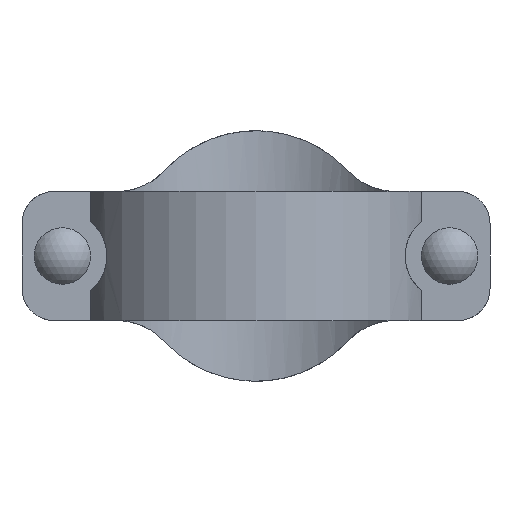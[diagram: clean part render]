
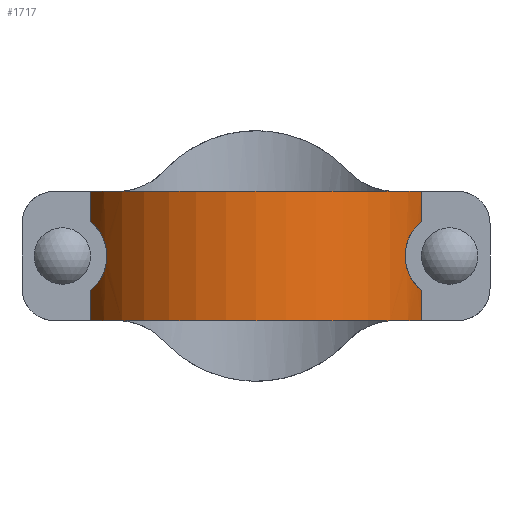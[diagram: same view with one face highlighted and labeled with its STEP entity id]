
A CAD part, front view. The second image highlights one B-rep face of the part: STEP entity #1717.
In plain terms, the highlighted cylindrical face has radius 69.85 mm (diameter 139.7 mm), a partial arc.
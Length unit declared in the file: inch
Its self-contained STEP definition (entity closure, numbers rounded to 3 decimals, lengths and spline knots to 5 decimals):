
#62=B_SPLINE_CURVE_WITH_KNOTS('',3,(#2529,#2530,#2531,#2532,#2533,#2534,
#2535,#2536,#2537,#2538,#2539,#2540,#2541,#2542,#2543,#2544,#2545,#2546,
#2547,#2548,#2549,#2550,#2551,#2552,#2553,#2554),.UNSPECIFIED.,.F.,.F.,
(4,2,2,2,2,2,2,2,2,2,2,2,4),(1.01927,1.09734,1.646,
2.19467,2.61833,2.83016,3.04198,3.25381,
3.46564,3.88929,4.43796,4.98663,5.06469),
 .UNSPECIFIED.);
#77=B_SPLINE_CURVE_WITH_KNOTS('',3,(#3099,#3100,#3101,#3102,#3103,#3104,
#3105,#3106,#3107,#3108,#3109,#3110,#3111,#3112,#3113,#3114,#3115,#3116,
#3117,#3118,#3119,#3120,#3121,#3122,#3123,#3124),.UNSPECIFIED.,.F.,.F.,
(4,2,2,2,2,2,2,2,2,2,2,2,4),(1.01927,1.09734,1.646,
2.19467,2.61833,2.83016,3.04198,3.25381,
3.46564,3.88929,4.43796,4.98663,5.06469),
 .UNSPECIFIED.);
#106=CYLINDRICAL_SURFACE('',#1877,2.75);
#189=FACE_OUTER_BOUND('',#278,.T.);
#278=EDGE_LOOP('',(#1328,#1329,#1330,#1331,#1332,#1333,#1334,#1335));
#417=LINE('',#3202,#551);
#418=LINE('',#3205,#552);
#419=LINE('',#3206,#553);
#420=LINE('',#3207,#554);
#551=VECTOR('',#2265,0.3937);
#552=VECTOR('',#2268,0.3937);
#553=VECTOR('',#2269,0.3937);
#554=VECTOR('',#2270,0.3937);
#632=CIRCLE('',#1876,2.75);
#633=CIRCLE('',#1878,2.75);
#685=VERTEX_POINT('',#2527);
#686=VERTEX_POINT('',#2528);
#753=VERTEX_POINT('',#3097);
#754=VERTEX_POINT('',#3098);
#779=VERTEX_POINT('',#3195);
#780=VERTEX_POINT('',#3197);
#781=VERTEX_POINT('',#3201);
#782=VERTEX_POINT('',#3203);
#860=EDGE_CURVE('',#685,#686,#62,.T.);
#950=EDGE_CURVE('',#753,#754,#77,.T.);
#989=EDGE_CURVE('',#779,#780,#632,.T.);
#991=EDGE_CURVE('',#781,#686,#417,.T.);
#992=EDGE_CURVE('',#782,#781,#633,.T.);
#993=EDGE_CURVE('',#753,#782,#418,.T.);
#994=EDGE_CURVE('',#780,#754,#419,.T.);
#995=EDGE_CURVE('',#685,#779,#420,.T.);
#1328=ORIENTED_EDGE('',*,*,#860,.T.);
#1329=ORIENTED_EDGE('',*,*,#991,.F.);
#1330=ORIENTED_EDGE('',*,*,#992,.F.);
#1331=ORIENTED_EDGE('',*,*,#993,.F.);
#1332=ORIENTED_EDGE('',*,*,#950,.T.);
#1333=ORIENTED_EDGE('',*,*,#994,.F.);
#1334=ORIENTED_EDGE('',*,*,#989,.F.);
#1335=ORIENTED_EDGE('',*,*,#995,.F.);
#1717=ADVANCED_FACE('',(#189),#106,.T.);
#1876=AXIS2_PLACEMENT_3D('',#3198,#2260,#2261);
#1877=AXIS2_PLACEMENT_3D('',#3200,#2263,#2264);
#1878=AXIS2_PLACEMENT_3D('',#3204,#2266,#2267);
#2260=DIRECTION('center_axis',(0.,0.,1.));
#2261=DIRECTION('ref_axis',(-0.932,-0.364,0.));
#2263=DIRECTION('center_axis',(0.,0.,1.));
#2264=DIRECTION('ref_axis',(-0.932,-0.364,0.));
#2265=DIRECTION('',(0.,0.,1.));
#2266=DIRECTION('center_axis',(0.,0.,-1.));
#2267=DIRECTION('ref_axis',(-0.932,-0.364,0.));
#2268=DIRECTION('',(0.,0.,-1.));
#2269=DIRECTION('',(0.,0.,-1.));
#2270=DIRECTION('',(0.,0.,1.));
#2527=CARTESIAN_POINT('',(-2.56174,-1.,0.53294));
#2528=CARTESIAN_POINT('',(-2.56174,-1.,-0.53294));
#2529=CARTESIAN_POINT('Ctrl Pts',(-2.56174,-1.,0.53294));
#2530=CARTESIAN_POINT('Ctrl Pts',(-2.55795,-1.00971,0.52983));
#2531=CARTESIAN_POINT('Ctrl Pts',(-2.55412,-1.01935,0.52661));
#2532=CARTESIAN_POINT('Ctrl Pts',(-2.5231,-1.09624,0.49995));
#2533=CARTESIAN_POINT('Ctrl Pts',(-2.49415,-1.16014,0.47146));
#2534=CARTESIAN_POINT('Ctrl Pts',(-2.43671,-1.27637,0.40109));
#2535=CARTESIAN_POINT('Ctrl Pts',(-2.4082,-1.32878,0.35932));
#2536=CARTESIAN_POINT('Ctrl Pts',(-2.36314,-1.40699,0.26914));
#2537=CARTESIAN_POINT('Ctrl Pts',(-2.34395,-1.43842,0.22072));
#2538=CARTESIAN_POINT('Ctrl Pts',(-2.32393,-1.47037,0.14068));
#2539=CARTESIAN_POINT('Ctrl Pts',(-2.31869,-1.47859,0.11278));
#2540=CARTESIAN_POINT('Ctrl Pts',(-2.31172,-1.48947,0.05634));
#2541=CARTESIAN_POINT('Ctrl Pts',(-2.31,-1.49211,0.0278));
#2542=CARTESIAN_POINT('Ctrl Pts',(-2.31,-1.49211,-0.0278));
#2543=CARTESIAN_POINT('Ctrl Pts',(-2.31172,-1.48947,-0.05634));
#2544=CARTESIAN_POINT('Ctrl Pts',(-2.31869,-1.47859,-0.11278));
#2545=CARTESIAN_POINT('Ctrl Pts',(-2.32393,-1.47037,-0.14068));
#2546=CARTESIAN_POINT('Ctrl Pts',(-2.34395,-1.43842,-0.22072));
#2547=CARTESIAN_POINT('Ctrl Pts',(-2.36314,-1.40699,-0.26914));
#2548=CARTESIAN_POINT('Ctrl Pts',(-2.4082,-1.32878,-0.35932));
#2549=CARTESIAN_POINT('Ctrl Pts',(-2.43671,-1.27637,-0.40109));
#2550=CARTESIAN_POINT('Ctrl Pts',(-2.49415,-1.16014,-0.47146));
#2551=CARTESIAN_POINT('Ctrl Pts',(-2.5231,-1.09624,-0.49995));
#2552=CARTESIAN_POINT('Ctrl Pts',(-2.55412,-1.01935,-0.52661));
#2553=CARTESIAN_POINT('Ctrl Pts',(-2.55795,-1.00971,-0.52983));
#2554=CARTESIAN_POINT('Ctrl Pts',(-2.56174,-1.,-0.53294));
#3097=CARTESIAN_POINT('',(2.56174,-1.,-0.53294));
#3098=CARTESIAN_POINT('',(2.56174,-1.,0.53294));
#3099=CARTESIAN_POINT('Ctrl Pts',(2.56174,-1.,-0.53294));
#3100=CARTESIAN_POINT('Ctrl Pts',(2.55795,-1.00971,-0.52983));
#3101=CARTESIAN_POINT('Ctrl Pts',(2.55412,-1.01935,-0.52661));
#3102=CARTESIAN_POINT('Ctrl Pts',(2.5231,-1.09624,-0.49995));
#3103=CARTESIAN_POINT('Ctrl Pts',(2.49415,-1.16014,-0.47146));
#3104=CARTESIAN_POINT('Ctrl Pts',(2.43671,-1.27637,-0.40109));
#3105=CARTESIAN_POINT('Ctrl Pts',(2.4082,-1.32878,-0.35932));
#3106=CARTESIAN_POINT('Ctrl Pts',(2.36314,-1.40699,-0.26914));
#3107=CARTESIAN_POINT('Ctrl Pts',(2.34395,-1.43842,-0.22072));
#3108=CARTESIAN_POINT('Ctrl Pts',(2.32393,-1.47037,-0.14068));
#3109=CARTESIAN_POINT('Ctrl Pts',(2.31869,-1.47859,-0.11278));
#3110=CARTESIAN_POINT('Ctrl Pts',(2.31172,-1.48947,-0.05634));
#3111=CARTESIAN_POINT('Ctrl Pts',(2.31,-1.49211,-0.0278));
#3112=CARTESIAN_POINT('Ctrl Pts',(2.31,-1.49211,0.0278));
#3113=CARTESIAN_POINT('Ctrl Pts',(2.31172,-1.48947,0.05634));
#3114=CARTESIAN_POINT('Ctrl Pts',(2.31869,-1.47859,0.11278));
#3115=CARTESIAN_POINT('Ctrl Pts',(2.32393,-1.47037,0.14068));
#3116=CARTESIAN_POINT('Ctrl Pts',(2.34395,-1.43842,0.22072));
#3117=CARTESIAN_POINT('Ctrl Pts',(2.36314,-1.40699,0.26914));
#3118=CARTESIAN_POINT('Ctrl Pts',(2.4082,-1.32878,0.35932));
#3119=CARTESIAN_POINT('Ctrl Pts',(2.43671,-1.27637,0.40109));
#3120=CARTESIAN_POINT('Ctrl Pts',(2.49415,-1.16014,0.47146));
#3121=CARTESIAN_POINT('Ctrl Pts',(2.5231,-1.09624,0.49995));
#3122=CARTESIAN_POINT('Ctrl Pts',(2.55412,-1.01935,0.52661));
#3123=CARTESIAN_POINT('Ctrl Pts',(2.55795,-1.00971,0.52983));
#3124=CARTESIAN_POINT('Ctrl Pts',(2.56174,-1.,0.53294));
#3195=CARTESIAN_POINT('',(-2.56174,-1.,1.));
#3197=CARTESIAN_POINT('',(2.56174,-1.,1.));
#3198=CARTESIAN_POINT('Origin',(0.,0.,1.));
#3200=CARTESIAN_POINT('Origin',(0.,0.,0.));
#3201=CARTESIAN_POINT('',(-2.56174,-1.,-1.));
#3202=CARTESIAN_POINT('',(-2.56174,-1.,0.));
#3203=CARTESIAN_POINT('',(2.56174,-1.,-1.));
#3204=CARTESIAN_POINT('Origin',(0.,0.,-1.));
#3205=CARTESIAN_POINT('',(2.56174,-1.,0.));
#3206=CARTESIAN_POINT('',(2.56174,-1.,0.));
#3207=CARTESIAN_POINT('',(-2.56174,-1.,0.));
